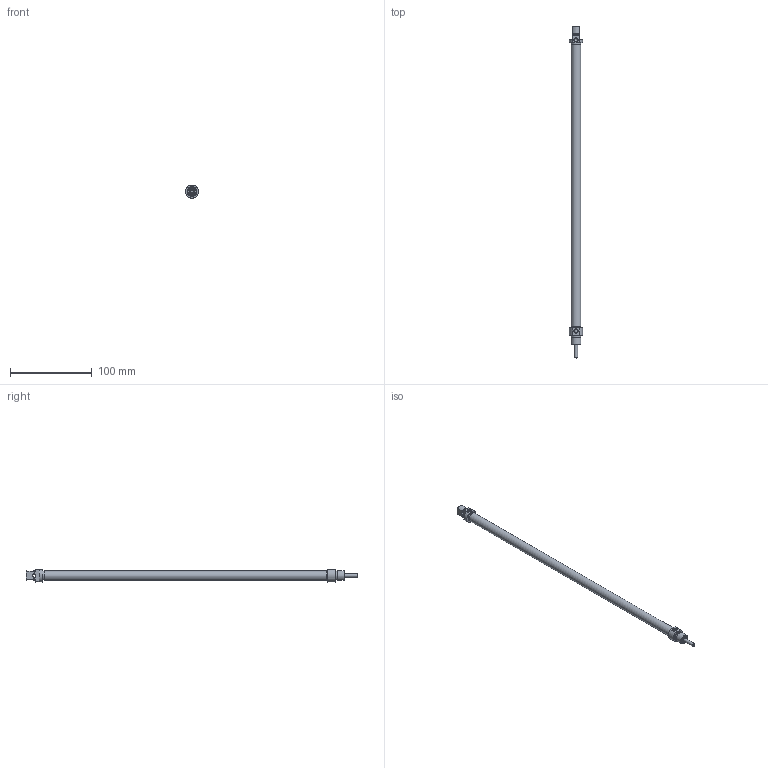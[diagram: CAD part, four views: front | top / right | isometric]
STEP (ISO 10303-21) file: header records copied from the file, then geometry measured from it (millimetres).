
FILE_DESCRIPTION((''),'2;1');
FILE_NAME('T:\Archivio Inventor\- 00 NUOVI STP PER SITO CON STELO CHE SI MUOVE\SERIE O\ODM\ODM010.---.GS.M\ODM010.320.GS.M.stp','2014-02-25T14:21:07',('carlo.corazza'),(''),'Autodesk Inventor 2012','Autodesk Inventor 2012','');
FILE_SCHEMA(('AUTOMOTIVE_DESIGN { 1 0 10303 214 1 1 1 1 }'));
Length unit declared in the file: millimetre
Products named in the file (5): ODM010..GS.M; TP; CORPO-320; TA; STELO-320
Assembly tree (4 placements, depth 2):
  ODM010..GS.M
    TP
    CORPO-320
    TA
    STELO-320
Bounding box: 16 x 406 x 15 mm (x, y, z)
Volume: 17197.2 mm3; surface area: 31168.8 mm2
Topology: 4 solids, 4 shells, 90 faces, 185 edges, 118 vertices
Faces by surface type: plane 32, cylinder 28, cone 23, torus 7
Full cylindrical faces by diameter (mm): 3 x1, 4 x2, 4.134 x2, 4.426 x1, 4.7 x1, 6.5 x1, 6.6 x1, 6.7 x1, 8.1 x1, 8.2 x1, 10 x1, 11.2 x3, 11.27 x1, 12 x2
Entity records: 2347 total; most frequent: CARTESIAN_POINT 410, DIRECTION 404, ORIENTED_EDGE 260, AXIS2_PLACEMENT_3D 184, EDGE_LOOP 154, EDGE_CURVE 130, VERTEX_POINT 108, FACE_OUTER_BOUND 90
